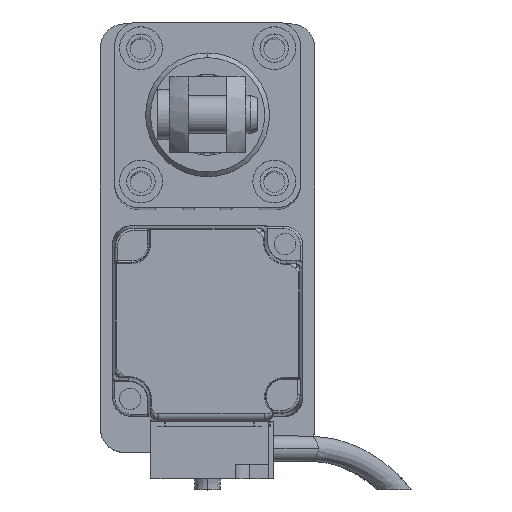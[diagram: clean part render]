
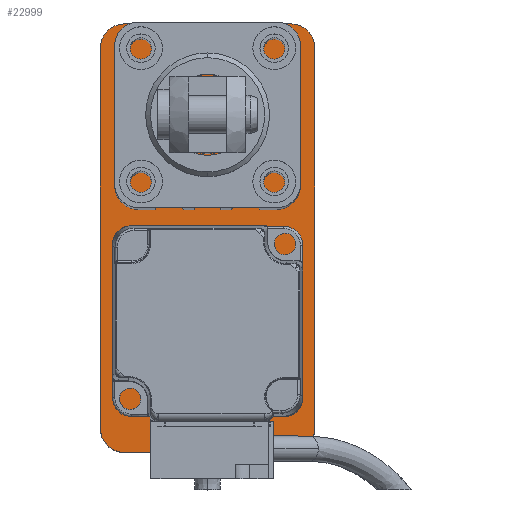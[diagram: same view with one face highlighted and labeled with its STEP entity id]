
A CAD part, top view. The second image highlights one B-rep face of the part: STEP entity #22999.
In plain terms, the highlighted planar face has unit normal (0, 0, 1).
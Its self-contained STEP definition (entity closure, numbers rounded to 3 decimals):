
#1093 = CARTESIAN_POINT ( 'NONE',  ( 22.5, -45., 10. ) ) ;
#1107 = DIRECTION ( 'NONE',  ( 0., 0., 1. ) ) ;
#1344 = VERTEX_POINT ( 'NONE', #10002 ) ;
#1749 = LINE ( 'NONE', #1093, #30171 ) ;
#2302 = VERTEX_POINT ( 'NONE', #32832 ) ;
#2391 = CARTESIAN_POINT ( 'NONE',  ( 22.5, -45., 10. ) ) ;
#2426 = CARTESIAN_POINT ( 'NONE',  ( -22.5, -40., 10. ) ) ;
#2784 = CARTESIAN_POINT ( 'NONE',  ( -17.5, -40., 10. ) ) ;
#2833 = DIRECTION ( 'NONE',  ( -1., 0., 0. ) ) ;
#2946 = CARTESIAN_POINT ( 'NONE',  ( 22.5, 45., 10. ) ) ;
#3443 = PLANE ( 'NONE',  #10007 ) ;
#4063 = DIRECTION ( 'NONE',  ( 0., 0., 1. ) ) ;
#4228 = CARTESIAN_POINT ( 'NONE',  ( 22.5, 40., 10. ) ) ;
#5389 = EDGE_CURVE ( 'NONE', #8677, #1344, #6862, .T. ) ;
#5945 = CIRCLE ( 'NONE', #31618, 5. ) ;
#6283 = VERTEX_POINT ( 'NONE', #24554 ) ;
#6328 = FACE_OUTER_BOUND ( 'NONE', #26435, .T. ) ;
#6454 = DIRECTION ( 'NONE',  ( 1., 0., 0. ) ) ;
#6862 = CIRCLE ( 'NONE', #8488, 5. ) ;
#6940 = EDGE_CURVE ( 'NONE', #9981, #21370, #5945, .T. ) ;
#7641 = CARTESIAN_POINT ( 'NONE',  ( -17.5, -45., 10. ) ) ;
#8227 = ORIENTED_EDGE ( 'NONE', *, *, #5389, .T. ) ;
#8488 = AXIS2_PLACEMENT_3D ( 'NONE', #11526, #14138, #6454 ) ;
#8677 = VERTEX_POINT ( 'NONE', #4228 ) ;
#8734 = DIRECTION ( 'NONE',  ( 0., 0., 1. ) ) ;
#9684 = ORIENTED_EDGE ( 'NONE', *, *, #33119, .T. ) ;
#9981 = VERTEX_POINT ( 'NONE', #2426 ) ;
#10002 = CARTESIAN_POINT ( 'NONE',  ( 17.5, 45., 10. ) ) ;
#10007 = AXIS2_PLACEMENT_3D ( 'NONE', #32003, #8734, #32120 ) ;
#10480 = EDGE_CURVE ( 'NONE', #20268, #6283, #20964, .T. ) ;
#10675 = ORIENTED_EDGE ( 'NONE', *, *, #13908, .T. ) ;
#11138 = DIRECTION ( 'NONE',  ( 0., -1., 0. ) ) ;
#11149 = LINE ( 'NONE', #18846, #30656 ) ;
#11526 = CARTESIAN_POINT ( 'NONE',  ( 17.5, 40., 10. ) ) ;
#11917 = ORIENTED_EDGE ( 'NONE', *, *, #26449, .T. ) ;
#13892 = ORIENTED_EDGE ( 'NONE', *, *, #10480, .T. ) ;
#13908 = EDGE_CURVE ( 'NONE', #20009, #8677, #1749, .T. ) ;
#14138 = DIRECTION ( 'NONE',  ( 0., 0., 1. ) ) ;
#14568 = DIRECTION ( 'NONE',  ( 1., 0., 0. ) ) ;
#15054 = DIRECTION ( 'NONE',  ( 1., 0., 0. ) ) ;
#16913 = LINE ( 'NONE', #2946, #23452 ) ;
#17087 = AXIS2_PLACEMENT_3D ( 'NONE', #19568, #4063, #14568 ) ;
#17517 = ORIENTED_EDGE ( 'NONE', *, *, #33348, .T. ) ;
#18534 = EDGE_CURVE ( 'NONE', #2302, #20009, #28002, .T. ) ;
#18846 = CARTESIAN_POINT ( 'NONE',  ( -22.5, -45., 10. ) ) ;
#19055 = DIRECTION ( 'NONE',  ( 0., 1., 0. ) ) ;
#19568 = CARTESIAN_POINT ( 'NONE',  ( 17.5, -40., 10. ) ) ;
#20009 = VERTEX_POINT ( 'NONE', #21080 ) ;
#20268 = VERTEX_POINT ( 'NONE', #24962 ) ;
#20892 = DIRECTION ( 'NONE',  ( 1., 0., 0. ) ) ;
#20964 = CIRCLE ( 'NONE', #27185, 5. ) ;
#21080 = CARTESIAN_POINT ( 'NONE',  ( 22.5, -40., 10. ) ) ;
#21370 = VERTEX_POINT ( 'NONE', #7641 ) ;
#22999 = ADVANCED_FACE ( 'NONE', ( #6328 ), #3443, .T. ) ;
#23054 = VECTOR ( 'NONE', #15054, 1000. ) ;
#23452 = VECTOR ( 'NONE', #2833, 1000. ) ;
#24439 = DIRECTION ( 'NONE',  ( 1., 0., 0. ) ) ;
#24554 = CARTESIAN_POINT ( 'NONE',  ( -22.5, 40., 10. ) ) ;
#24962 = CARTESIAN_POINT ( 'NONE',  ( -17.5, 45., 10. ) ) ;
#25948 = ORIENTED_EDGE ( 'NONE', *, *, #18534, .T. ) ;
#26435 = EDGE_LOOP ( 'NONE', ( #10675, #8227, #17517, #13892, #11917, #29343, #9684, #25948 ) ) ;
#26449 = EDGE_CURVE ( 'NONE', #6283, #9981, #11149, .T. ) ;
#26957 = CARTESIAN_POINT ( 'NONE',  ( -17.5, 40., 10. ) ) ;
#27185 = AXIS2_PLACEMENT_3D ( 'NONE', #26957, #1107, #24439 ) ;
#28002 = CIRCLE ( 'NONE', #17087, 5. ) ;
#29343 = ORIENTED_EDGE ( 'NONE', *, *, #6940, .T. ) ;
#30171 = VECTOR ( 'NONE', #19055, 1000. ) ;
#30656 = VECTOR ( 'NONE', #11138, 1000. ) ;
#31471 = DIRECTION ( 'NONE',  ( 0., 0., 1. ) ) ;
#31618 = AXIS2_PLACEMENT_3D ( 'NONE', #2784, #31471, #20892 ) ;
#31939 = LINE ( 'NONE', #2391, #23054 ) ;
#32003 = CARTESIAN_POINT ( 'NONE',  ( 0., 0., 10. ) ) ;
#32120 = DIRECTION ( 'NONE',  ( 1., 0., 0. ) ) ;
#32832 = CARTESIAN_POINT ( 'NONE',  ( 17.5, -45., 10. ) ) ;
#33119 = EDGE_CURVE ( 'NONE', #21370, #2302, #31939, .T. ) ;
#33348 = EDGE_CURVE ( 'NONE', #1344, #20268, #16913, .T. ) ;
